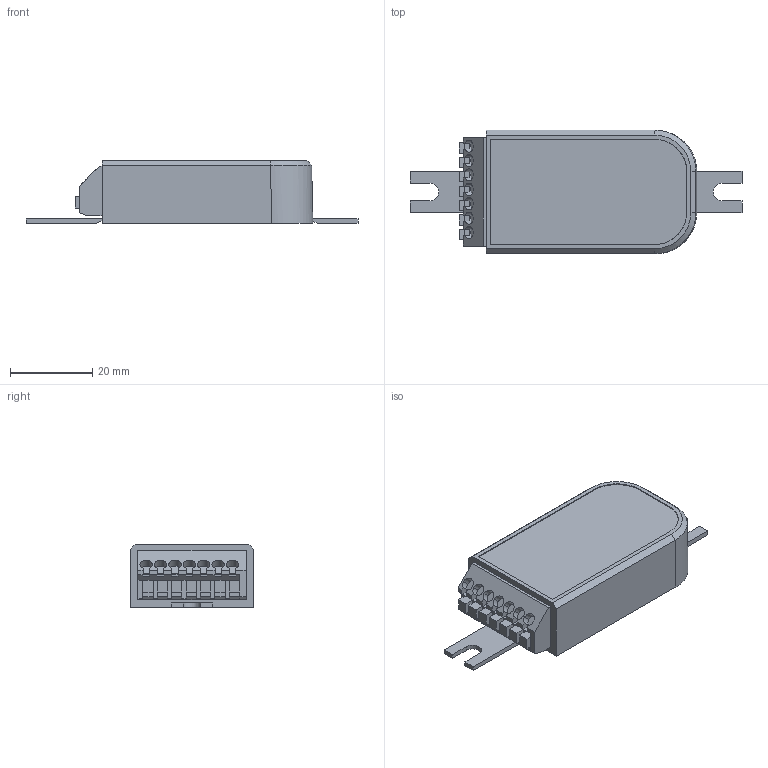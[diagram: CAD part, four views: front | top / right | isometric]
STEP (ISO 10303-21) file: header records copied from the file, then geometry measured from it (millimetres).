
FILE_DESCRIPTION((''),'2;1');
FILE_NAME('15014413Z_DATAMEC','2021-04-13T15:54:31',('Juergen.Hrach'),(''),'CREO PARAMETRIC BY PTC INC, 2019164','CREO PARAMETRIC BY PTC INC, 2019164','');
FILE_SCHEMA(('CONFIG_CONTROL_DESIGN'));
Length unit declared in the file: millimetre
Products named in the file (1): 15014413Z_DATAMEC
Bounding box: 80.7 x 30 x 15.3 mm (x, y, z)
Volume: 24012.2 mm3; surface area: 6488.6 mm2
Topology: 1 solids, 1 shells, 156 faces, 431 edges, 280 vertices
Faces by surface type: plane 134, cylinder 18, bspline 2, extrusion 2
Entity records: 5100 total; most frequent: CARTESIAN_POINT 1091, ORIENTED_EDGE 862, DIRECTION 759, EDGE_CURVE 431, VECTOR 377, LINE 375, VERTEX_POINT 280, AXIS2_PLACEMENT_3D 191
